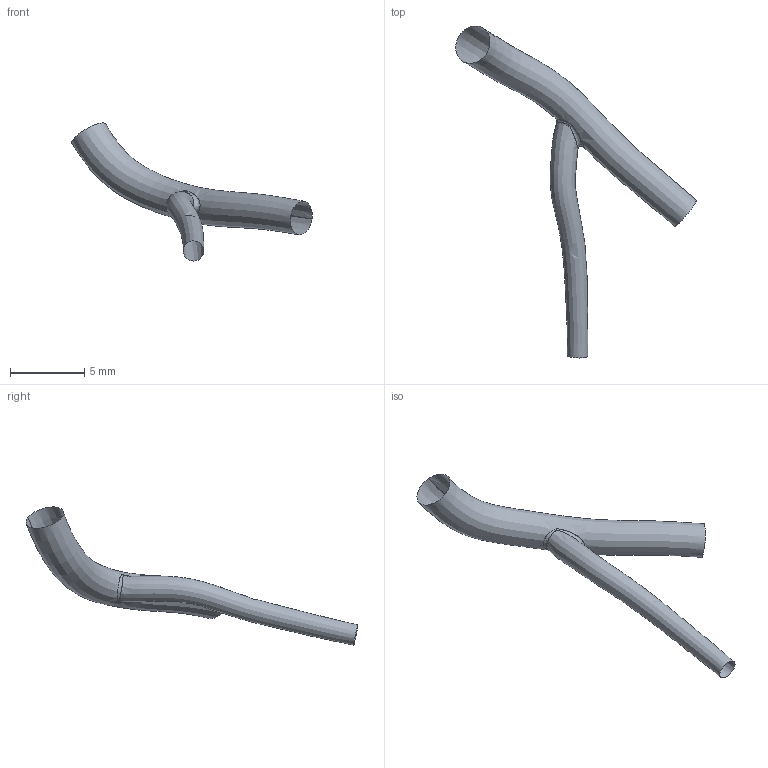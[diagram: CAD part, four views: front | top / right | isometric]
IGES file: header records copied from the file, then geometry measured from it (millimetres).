
Global section: file name: C:\Documents and Settings\Administrator\Desktop\FDA-Pig\Domestic LCA\Pig_000011\diag.ed.igs; native system: Rhinoceros ( May 19 2006 ); preprocessor: Trout Lake IGES 012 May 19 2006; date: 111205.183918; units: centimetre
Bounding box: 16.21 x 22.36 x 9.31 mm (x, y, z)
Surface area: 229.1 mm2 (no closed solid volume)
Topology: 0 solids, 0 shells, 3 faces, 49 edges, 46 vertices
Faces by surface type: bspline 3
